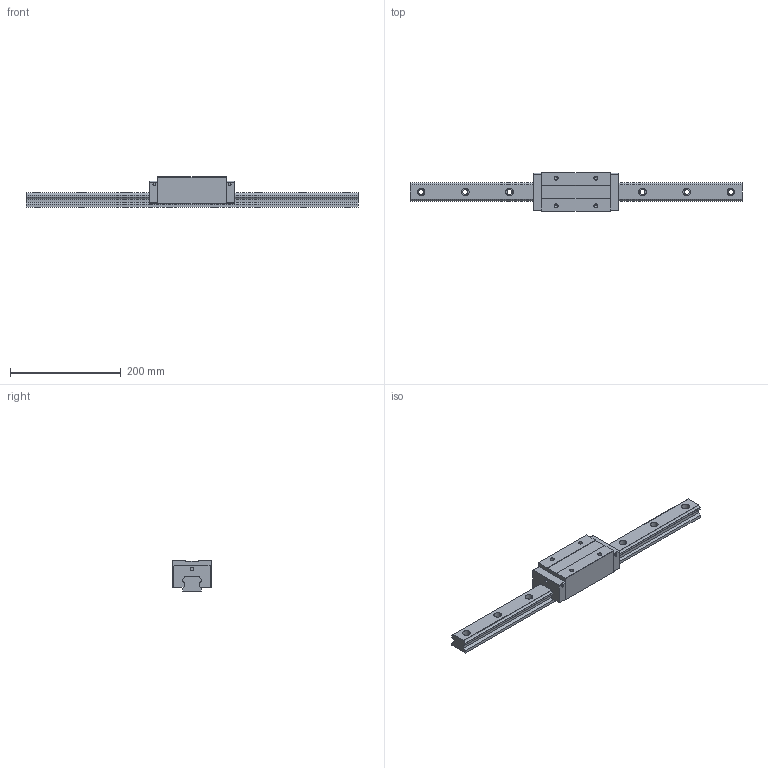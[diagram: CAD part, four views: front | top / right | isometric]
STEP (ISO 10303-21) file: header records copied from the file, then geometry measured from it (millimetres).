
FILE_DESCRIPTION (( 'STEP AP203' ), '1' );
FILE_NAME ('TRH35VE-XN.STEP', '2024-05-17T07:04:14', ( '' ), ( '' ), 'SwSTEP 2.0', 'SolidWorks 2022', '' );
FILE_SCHEMA (( 'CONFIG_CONTROL_DESIGN' ));
Length unit declared in the file: millimetre
Products named in the file (1): TRH35VE-XN
Bounding box: 600 x 70 x 55 mm (x, y, z)
Volume: 849380 mm3; surface area: 131296.8 mm2
Topology: 2 solids, 2 shells, 186 faces, 488 edges, 316 vertices
Faces by surface type: cylinder 88, plane 82, cone 16
Entity records: 5819 total; most frequent: DIRECTION 1038, CARTESIAN_POINT 983, ORIENTED_EDGE 960, EDGE_CURVE 480, AXIS2_PLACEMENT_3D 371, VERTEX_POINT 316, LINE 296, VECTOR 296
